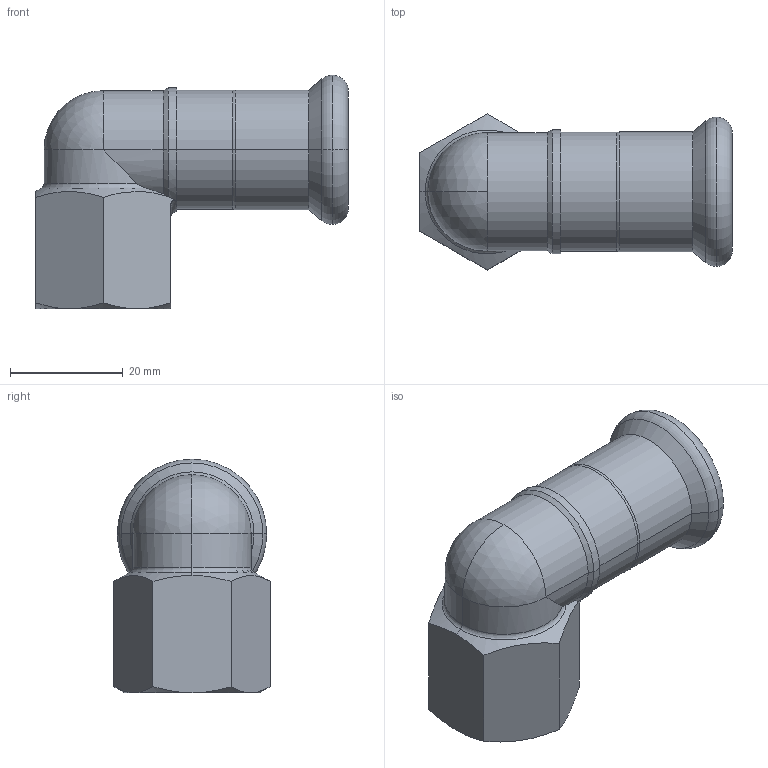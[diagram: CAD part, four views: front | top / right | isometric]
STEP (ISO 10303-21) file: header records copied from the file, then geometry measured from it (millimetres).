
FILE_DESCRIPTION(('OneSpaceDesigner STEP Export'),'2;1');
FILE_NAME('R2709 18xG1-2.pkg.stp','2010-06-09T14:44:31',(''),(''),'OneSpace Designer STEP processor for AP214 (Solid Model)','OneSpace Modeling 15.00A 14-Mar-2007 (C) CoCreate Software GmbH','');
FILE_SCHEMA(('AUTOMOTIVE_DESIGN { 1 0 10303 214 1 1 1 1 }'));
Length unit declared in the file: millimetre
Products named in the file (2): R2709_18xG1-2
Assembly tree (1 placements, depth 2):
  R2709_18xG1-2
    R2709_18xG1-2
Bounding box: 55.5 x 27.71 x 41.45 mm (x, y, z)
Volume: 11519.4 mm3; surface area: 10231 mm2
Topology: 1 solids, 1 shells, 100 faces, 246 edges, 151 vertices
Faces by surface type: plane 40, cylinder 32, cone 15, torus 9, sphere 4
Entity records: 4002 total; most frequent: CARTESIAN_POINT 1833, ORIENTED_EDGE 484, DIRECTION 375, EDGE_CURVE 242, VERTEX_POINT 151, AXIS2_PLACEMENT_3D 133, EDGE_LOOP 115, VECTOR 109
